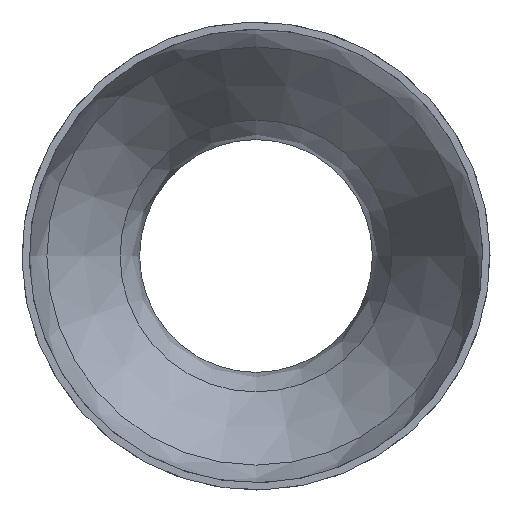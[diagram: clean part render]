
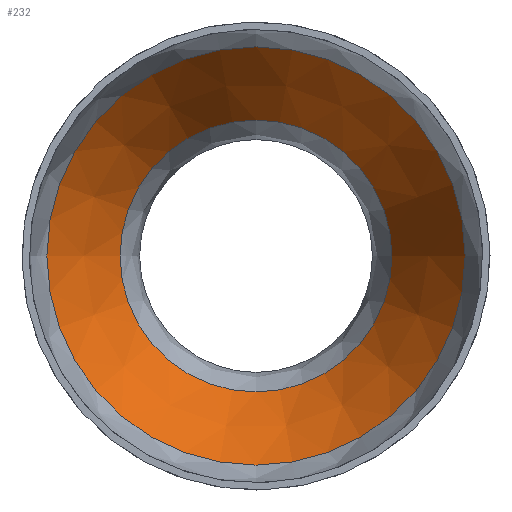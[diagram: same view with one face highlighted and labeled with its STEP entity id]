
A CAD part, left-side view. The second image highlights one B-rep face of the part: STEP entity #232.
In plain terms, the highlighted conical face has half-angle 30 degrees and reference radius 62.048 mm.
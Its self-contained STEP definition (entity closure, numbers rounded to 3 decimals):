
#198=CARTESIAN_POINT('',(-94.079,75.2,0.0));
#199=VERTEX_POINT('',#198);
#200=CARTESIAN_POINT('',(-94.079,0.,0.0));
#201=DIRECTION('',(1.0,0.0,0.0));
#202=DIRECTION('',(0.0,1.0,0.0));
#203=AXIS2_PLACEMENT_3D('',#200,#201,#202);
#204=CIRCLE('',#203,75.2);
#205=EDGE_CURVE('',#199,#199,#204,.T.);
#213=CARTESIAN_POINT('',(-71.3,0.,0.0));
#214=DIRECTION('',(-1.0,0.,0.0));
#215=DIRECTION('',(0.0,1.0,0.0));
#216=AXIS2_PLACEMENT_3D('',#213,#214,#215);
#217=CONICAL_SURFACE('',#216,62.048,30.);
#218=CARTESIAN_POINT('',(-48.521,48.897,0.0));
#219=VERTEX_POINT('',#218);
#220=CARTESIAN_POINT('',(-48.521,0.,0.0));
#221=DIRECTION('',(1.0,0.0,0.0));
#222=DIRECTION('',(0.0,1.0,0.0));
#223=AXIS2_PLACEMENT_3D('',#220,#221,#222);
#224=CIRCLE('',#223,48.897);
#225=EDGE_CURVE('',#219,#219,#224,.T.);
#226=ORIENTED_EDGE('',*,*,#225,.T.);
#227=EDGE_LOOP('',(#226));
#228=FACE_OUTER_BOUND('',#227,.T.);
#229=ORIENTED_EDGE('',*,*,#205,.F.);
#230=EDGE_LOOP('',(#229));
#231=FACE_BOUND('',#230,.T.);
#232=ADVANCED_FACE('',(#228,#231),#217,.F.);
